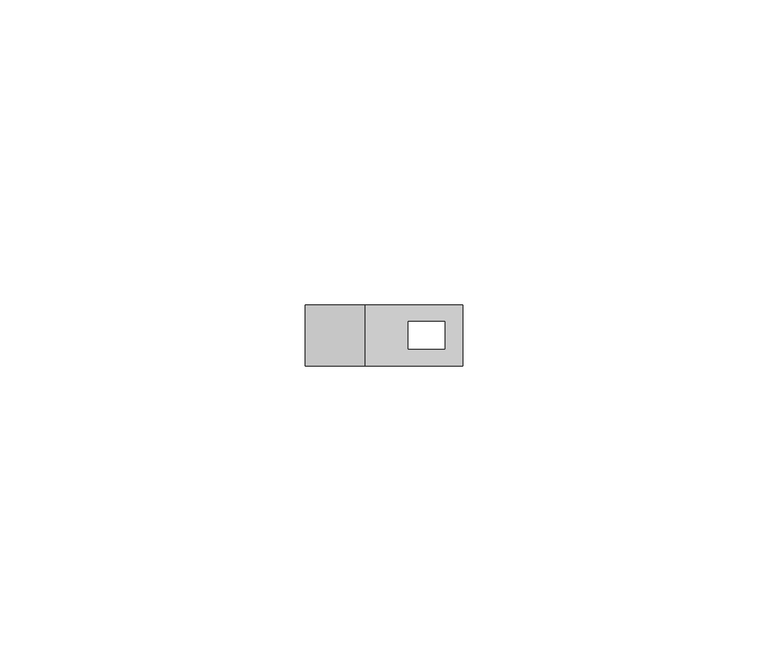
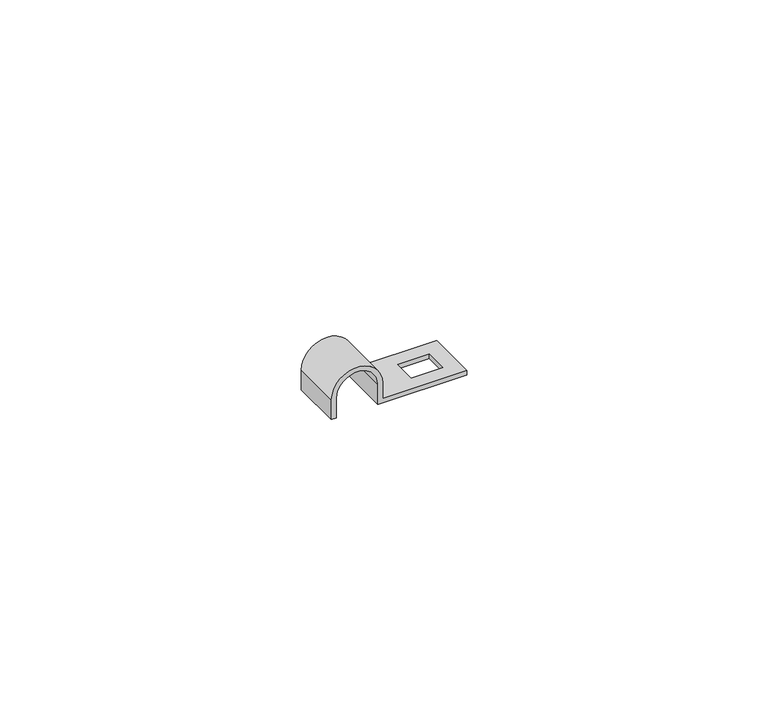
"""IFC4 building model written with IfcOpenShell, lengths in millimetres: cable carrier fitting geometry."""

from ifc_helpers import new_model, si_unit, frame, origin, place, context, project, spatial, polyline, circle_curve, source, transform, mapped, element, save
from ifc_brep_helpers import plane_surface, cylinder_surface, revolved_surface, advanced_brep


def cable_carrier_fitting_af9cb672(model_context):
    return source(origin(), model_context, "Body", "AdvancedBrep", [
        advanced_brep(
        [(21.0, -5.0, 0.0), (21.0, -5.0, 0.9), (4.9, -5.0, 0.9), (4.9, -5.0, 4.0), (-4.9, -5.0, 4.0), (-4.9, -5.0, 0.0), (-4.0, -5.0, 0.0), (-4.0, -5.0, 4.0), (4.0, -5.0, 4.0), (4.0, -5.0, 0.0), (21.0, 5.0, 0.0), (4.0, 5.0, 0.0), (4.0, 5.0, 4.0), (-4.0, 5.0, 4.0), (-4.0, 5.0, 0.0), (-4.9, 5.0, 0.0), (-4.9, 5.0, 4.0), (4.9, 5.0, 4.0), (4.9, 5.0, 0.9), (21.0, 5.0, 0.9), (18.0, -2.25, 0.9), (12.0, -2.25, 0.9), (12.0, 2.25, 0.9), (18.0, 2.25, 0.9), (12.0, -2.25, 0.0), (18.0, -2.25, 0.0), (18.0, 2.25, 0.0), (12.0, 2.25, 0.0)],
        [
            (0, 1),
            (1, 2),
            (2, 3),
            (3, 4, circle_curve(frame((0.0, -5.0, 4.0), z_axis=(0.0, -1.0, 0.0), x_axis=(1.0, 0.0, 0.0)), 4.9)),
            (4, 5),
            (5, 6),
            (6, 7),
            (7, 8, circle_curve(frame((0.0, -5.0, 4.0), z_axis=(0.0, 1.0, 0.0), x_axis=(1.0, 0.0, 0.0)), 4.0)),
            (8, 9),
            (9, 0),
            (10, 11),
            (11, 12),
            (12, 13, circle_curve(frame((0.0, 5.0, 4.0), z_axis=(0.0, -1.0, 0.0), x_axis=(1.0, 0.0, 0.0)), 4.0)),
            (13, 14),
            (14, 15),
            (15, 16),
            (16, 17, circle_curve(frame((0.0, 5.0, 4.0), z_axis=(0.0, 1.0, 0.0), x_axis=(1.0, 0.0, 0.0)), 4.9)),
            (17, 18),
            (18, 19),
            (19, 10),
            (0, 10),
            (19, 1),
            (18, 2),
            (20, 21),
            (21, 22),
            (22, 23),
            (23, 20),
            (17, 3),
            (16, 4),
            (15, 5),
            (14, 6),
            (13, 7),
            (12, 8),
            (11, 9),
            (24, 25),
            (25, 26),
            (26, 27),
            (27, 24),
            (24, 21),
            (20, 25),
            (23, 26),
            (22, 27),
        ],
        [
            plane_surface(frame((21.0, -5.0, 0.9), z_axis=(0.0, -1.0, 0.0), x_axis=(0.0, 0.0, 1.0))),
            plane_surface(frame((21.0, 5.0, 0.9), z_axis=(0.0, 1.0, 0.0), x_axis=(0.0, 0.0, -1.0))),
            plane_surface(frame((21.0, -5.0, 0.0), z_axis=(1.0, 0.0, 0.0), x_axis=(0.0, 1.0, 0.0))),
            plane_surface(frame((21.0, -5.0, 0.9), z_axis=(0.0, 0.0, 1.0), x_axis=(0.0, 1.0, 0.0))),
            plane_surface(frame((4.9, -5.0, 0.9), z_axis=(1.0, 0.0, 0.0), x_axis=(0.0, 1.0, 0.0))),
            cylinder_surface(frame((0.0, 5.0, 4.0), z_axis=(0.0, -1.0, 0.0), x_axis=(1.0, 0.0, 0.0)), 4.9),
            plane_surface(frame((-4.9, -5.0, 4.0), z_axis=(-1.0, 0.0, 0.0), x_axis=(0.0, 1.0, 0.0))),
            plane_surface(frame((-4.9, -5.0, 0.0), z_axis=(0.0, 0.0, -1.0), x_axis=(0.0, 1.0, 0.0))),
            plane_surface(frame((-4.0, -5.0, 0.0), z_axis=(1.0, 0.0, 0.0), x_axis=(0.0, 1.0, 0.0))),
            revolved_surface(polyline([(4.0, 5.0, 4.0), (4.0, -5.0, 4.0)]), (0.0, 5.0, 4.0), (0.0, 1.0, 0.0)),
            plane_surface(frame((4.0, -5.0, 4.0), z_axis=(-1.0, 0.0, 0.0), x_axis=(0.0, 1.0, 0.0))),
            plane_surface(frame((4.0, -5.0, 0.0), z_axis=(0.0, 0.0, -1.0), x_axis=(0.0, 1.0, 0.0))),
            plane_surface(frame((12.0, -2.25, 21.959409), z_axis=(0.0, 1.0, 0.0), x_axis=(0.0, 0.0, -1.0))),
            plane_surface(frame((18.0, -2.25, 21.959409), z_axis=(-1.0, 0.0, 0.0), x_axis=(0.0, 0.0, -1.0))),
            plane_surface(frame((18.0, 2.25, 21.959409), z_axis=(0.0, -1.0, 0.0), x_axis=(0.0, 0.0, -1.0))),
            plane_surface(frame((12.0, 2.25, 21.959409), z_axis=(1.0, 0.0, 0.0), x_axis=(0.0, 0.0, -1.0))),
        ],
        [
            (0, [[1, 2, 3, 4, 5, 6, 7, 8, 9, 10]]),
            (1, [[11, 12, 13, 14, 15, 16, 17, 18, 19, 20]]),
            (2, [[-1, 21, -20, 22]]),
            (3, [[-2, -22, -19, 23], [24, 25, 26, 27]]),
            (4, [[-3, -23, -18, 28]]),
            (5, [[-4, -28, -17, 29]]),
            (6, [[-5, -29, -16, 30]]),
            (7, [[-6, -30, -15, 31]]),
            (8, [[-7, -31, -14, 32]]),
            (9, [[-8, -32, -13, 33]]),
            (10, [[-9, -33, -12, 34]]),
            (11, [[-10, -34, -11, -21], [35, 36, 37, 38]]),
            (12, [[39, -24, 40, -35]]),
            (13, [[-40, -27, 41, -36]]),
            (14, [[-41, -26, 42, -37]]),
            (15, [[-39, -38, -42, -25]]),
        ],
    ),
    ])


if __name__ == "__main__":
    model = new_model("IFC4")
    model_context = context("Model", 3, world=origin())
    ifc_project = project(units=[si_unit("LENGTHUNIT", "METRE", prefix="MILLI")], contexts=[model_context])
    site = spatial("IfcSite", under=ifc_project)
    building = spatial("IfcBuilding", under=site)
    placement = place(None, origin())
    cable_carrier_fitting_shape = cable_carrier_fitting_af9cb672(model_context)
    element("IfcCableCarrierFitting", 1, at=placement, inside=building, context=model_context, shape_type="MappedRepresentation", body=[
        mapped(cable_carrier_fitting_shape, transform((0.0, 0.0, 0.0), x_axis=(1.0, 0.0, 0.0), y_axis=(0.0, 1.0, 0.0), z_axis=(0.0, 0.0, 1.0))),
    ])
    save(model, "model.ifc")
